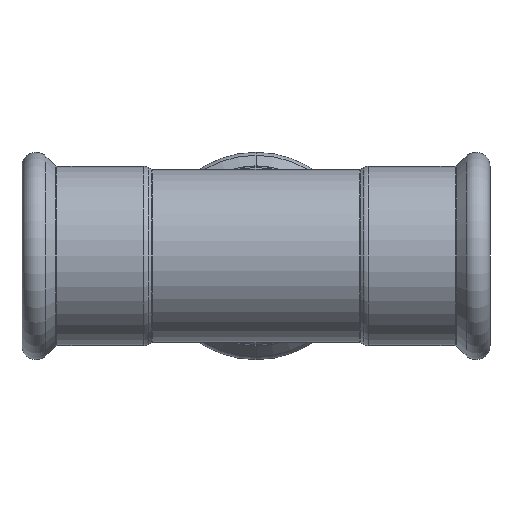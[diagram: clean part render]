
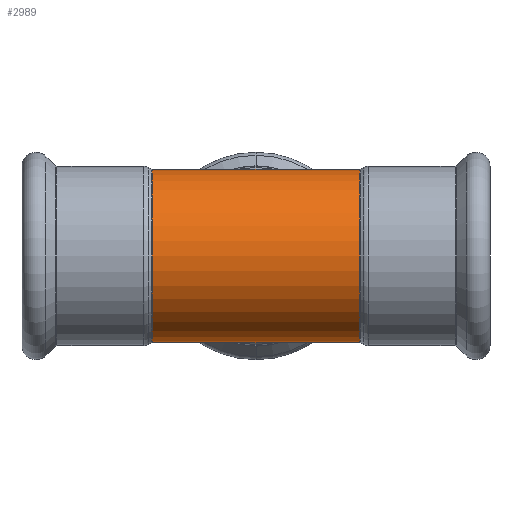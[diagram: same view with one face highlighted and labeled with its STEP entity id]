
A CAD part, front view. The second image highlights one B-rep face of the part: STEP entity #2989.
In plain terms, the highlighted cylindrical face has radius 18.5 mm (diameter 37 mm), a partial arc.
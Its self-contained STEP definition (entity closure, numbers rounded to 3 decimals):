
#8 = ORIENTED_EDGE ( 'NONE', *, *, #947, .T. ) ;
#17 = DIRECTION ( 'NONE',  ( 0., 0., 1. ) ) ;
#346 = DIRECTION ( 'NONE',  ( 0., 0., 1. ) ) ;
#365 = DIRECTION ( 'NONE',  ( -1., 0., 0. ) ) ;
#387 = VERTEX_POINT ( 'NONE', #950 ) ;
#413 = DIRECTION ( 'NONE',  ( -1., 0., 0. ) ) ;
#423 = CARTESIAN_POINT ( 'NONE',  ( -22.154, 0., -18.5 ) ) ;
#817 = VECTOR ( 'NONE', #2580, 1000. ) ;
#841 = CARTESIAN_POINT ( 'NONE',  ( 0., 0., -18.5 ) ) ;
#913 = CARTESIAN_POINT ( 'NONE',  ( 27.146, 0., -18.5 ) ) ;
#928 = DIRECTION ( 'NONE',  ( -1., 0., 0. ) ) ;
#947 = EDGE_CURVE ( 'NONE', #1940, #387, #2492, .T. ) ;
#950 = CARTESIAN_POINT ( 'NONE',  ( 0., 0., 18.5 ) ) ;
#1125 = CARTESIAN_POINT ( 'NONE',  ( 22.154, 0., -18.5 ) ) ;
#1236 = DIRECTION ( 'NONE',  ( 0., 0., 1. ) ) ;
#1360 = CARTESIAN_POINT ( 'NONE',  ( 27.146, 0., -18.5 ) ) ;
#1445 = DIRECTION ( 'NONE',  ( -1., 0., 0. ) ) ;
#1454 = CARTESIAN_POINT ( 'NONE',  ( 27.146, 0., 0. ) ) ;
#1490 = CARTESIAN_POINT ( 'NONE',  ( 27.146, 0., 18.5 ) ) ;
#1545 = CIRCLE ( 'NONE', #3169, 18.5 ) ;
#1701 = VERTEX_POINT ( 'NONE', #841 ) ;
#1748 = EDGE_LOOP ( 'NONE', ( #2709, #3271, #8, #2644, #2599, #1909 ) ) ;
#1837 = EDGE_CURVE ( 'NONE', #1886, #1940, #1545, .T. ) ;
#1878 = DIRECTION ( 'NONE',  ( -1., 0., 0. ) ) ;
#1879 = FACE_OUTER_BOUND ( 'NONE', #1748, .T. ) ;
#1886 = VERTEX_POINT ( 'NONE', #1125 ) ;
#1909 = ORIENTED_EDGE ( 'NONE', *, *, #2703, .F. ) ;
#1940 = VERTEX_POINT ( 'NONE', #3410 ) ;
#2007 = CARTESIAN_POINT ( 'NONE',  ( 27.146, 0., 18.5 ) ) ;
#2056 = CARTESIAN_POINT ( 'NONE',  ( -22.154, 0., 0. ) ) ;
#2178 = LINE ( 'NONE', #2007, #3528 ) ;
#2218 = EDGE_CURVE ( 'NONE', #2436, #2938, #2373, .T. ) ;
#2230 = LINE ( 'NONE', #913, #3145 ) ;
#2277 = CYLINDRICAL_SURFACE ( 'NONE', #2569, 18.5 ) ;
#2373 = CIRCLE ( 'NONE', #3533, 18.5 ) ;
#2436 = VERTEX_POINT ( 'NONE', #423 ) ;
#2492 = LINE ( 'NONE', #1490, #817 ) ;
#2569 = AXIS2_PLACEMENT_3D ( 'NONE', #1454, #1445, #346 ) ;
#2580 = DIRECTION ( 'NONE',  ( -1., 0., 0. ) ) ;
#2599 = ORIENTED_EDGE ( 'NONE', *, *, #2218, .F. ) ;
#2644 = ORIENTED_EDGE ( 'NONE', *, *, #3010, .T. ) ;
#2703 = EDGE_CURVE ( 'NONE', #1701, #2436, #3256, .T. ) ;
#2709 = ORIENTED_EDGE ( 'NONE', *, *, #3108, .F. ) ;
#2770 = DIRECTION ( 'NONE',  ( -1., 0., 0. ) ) ;
#2938 = VERTEX_POINT ( 'NONE', #3026 ) ;
#2989 = ADVANCED_FACE ( 'NONE', ( #1879 ), #2277, .T. ) ;
#3010 = EDGE_CURVE ( 'NONE', #387, #2938, #2178, .T. ) ;
#3026 = CARTESIAN_POINT ( 'NONE',  ( -22.154, 0., 18.5 ) ) ;
#3062 = CARTESIAN_POINT ( 'NONE',  ( 22.154, 0., 0. ) ) ;
#3108 = EDGE_CURVE ( 'NONE', #1886, #1701, #2230, .T. ) ;
#3145 = VECTOR ( 'NONE', #928, 1000. ) ;
#3169 = AXIS2_PLACEMENT_3D ( 'NONE', #3062, #2770, #17 ) ;
#3186 = VECTOR ( 'NONE', #1878, 1000. ) ;
#3256 = LINE ( 'NONE', #1360, #3186 ) ;
#3271 = ORIENTED_EDGE ( 'NONE', *, *, #1837, .T. ) ;
#3410 = CARTESIAN_POINT ( 'NONE',  ( 22.154, 0., 18.5 ) ) ;
#3528 = VECTOR ( 'NONE', #365, 1000. ) ;
#3533 = AXIS2_PLACEMENT_3D ( 'NONE', #2056, #413, #1236 ) ;
